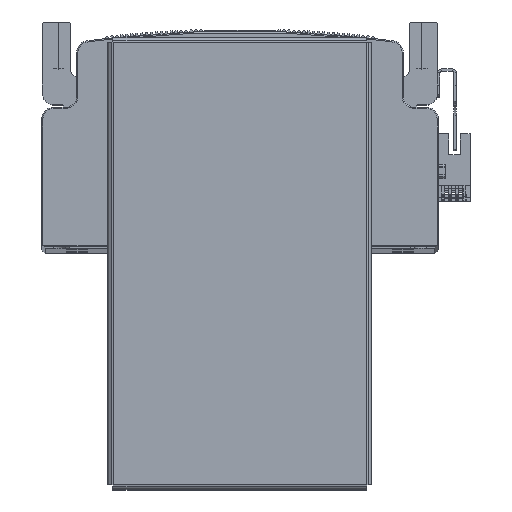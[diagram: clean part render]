
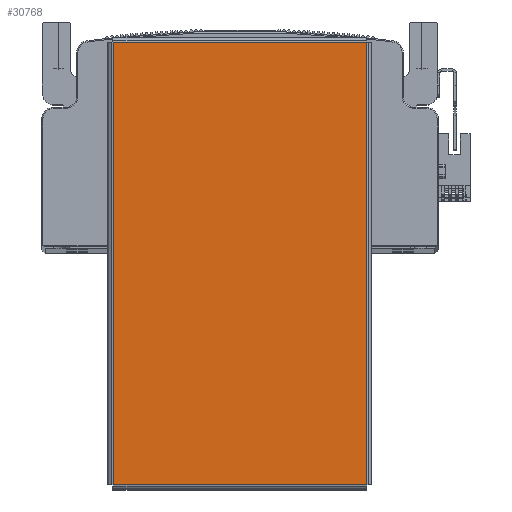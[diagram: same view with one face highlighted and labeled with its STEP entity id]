
A CAD part, top view. The second image highlights one B-rep face of the part: STEP entity #30768.
In plain terms, the highlighted planar face has unit normal (0, 0, 1) as drawn and (0, -1, 0) by its records, which use the part's own axes.
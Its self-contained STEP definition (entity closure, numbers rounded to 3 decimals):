
#5979 = VERTEX_POINT ( 'NONE', #63337 ) ;
#12501 = EDGE_CURVE ( 'NONE', #16892, #16904, #21671, .T. ) ;
#12527 = EDGE_CURVE ( 'NONE', #5979, #16892, #21695, .T. ) ;
#12541 = EDGE_CURVE ( 'NONE', #16904, #16887, #21739, .T. ) ;
#12601 = EDGE_CURVE ( 'NONE', #16887, #5979, #21816, .T. ) ;
#16887 = VERTEX_POINT ( 'NONE', #33103 ) ;
#16892 = VERTEX_POINT ( 'NONE', #33092 ) ;
#16904 = VERTEX_POINT ( 'NONE', #33097 ) ;
#20620 = CARTESIAN_POINT ( 'NONE',  ( -94.763, -1.5, 54.393 ) ) ;
#20656 = DIRECTION ( 'NONE',  ( 0., 0., -1. ) ) ;
#21671 = LINE ( 'NONE', #35417, #21675 ) ;
#21675 = VECTOR ( 'NONE', #35432, 1000. ) ;
#21695 = LINE ( 'NONE', #35043, #21704 ) ;
#21704 = VECTOR ( 'NONE', #35038, 1000. ) ;
#21738 = VECTOR ( 'NONE', #35042, 1000. ) ;
#21739 = LINE ( 'NONE', #35073, #21738 ) ;
#21796 = VECTOR ( 'NONE', #20656, 1000. ) ;
#21816 = LINE ( 'NONE', #20620, #21796 ) ;
#23588 = FACE_OUTER_BOUND ( 'NONE', #58477, .T. ) ;
#30768 = ADVANCED_FACE ( 'NONE', ( #23588 ), #57343, .F. ) ;
#33092 = CARTESIAN_POINT ( 'NONE',  ( 94.763, -1.5, -54.363 ) ) ;
#33097 = CARTESIAN_POINT ( 'NONE',  ( 94.763, -1.5, 54.363 ) ) ;
#33103 = CARTESIAN_POINT ( 'NONE',  ( -94.763, -1.5, 54.363 ) ) ;
#35038 = DIRECTION ( 'NONE',  ( 1., 0., 0. ) ) ;
#35042 = DIRECTION ( 'NONE',  ( -1., 0., 0. ) ) ;
#35043 = CARTESIAN_POINT ( 'NONE',  ( -94.793, -1.5, -54.363 ) ) ;
#35073 = CARTESIAN_POINT ( 'NONE',  ( 94.793, -1.5, 54.363 ) ) ;
#35417 = CARTESIAN_POINT ( 'NONE',  ( 94.763, -1.5, -54.393 ) ) ;
#35432 = DIRECTION ( 'NONE',  ( 0., 0., 1. ) ) ;
#43924 = AXIS2_PLACEMENT_3D ( 'NONE', #57355, #57359, #57344 ) ;
#51670 = ORIENTED_EDGE ( 'NONE', *, *, #12527, .T. ) ;
#51672 = ORIENTED_EDGE ( 'NONE', *, *, #12601, .T. ) ;
#51687 = ORIENTED_EDGE ( 'NONE', *, *, #12541, .T. ) ;
#51728 = ORIENTED_EDGE ( 'NONE', *, *, #12501, .T. ) ;
#57343 = PLANE ( 'NONE',  #43924 ) ;
#57344 = DIRECTION ( 'NONE',  ( 0., 0., 1. ) ) ;
#57355 = CARTESIAN_POINT ( 'NONE',  ( 0., -1.5, 0. ) ) ;
#57359 = DIRECTION ( 'NONE',  ( 0., 1., 0. ) ) ;
#58477 = EDGE_LOOP ( 'NONE', ( #51687, #51672, #51670, #51728 ) ) ;
#63337 = CARTESIAN_POINT ( 'NONE',  ( -94.763, -1.5, -54.363 ) ) ;
